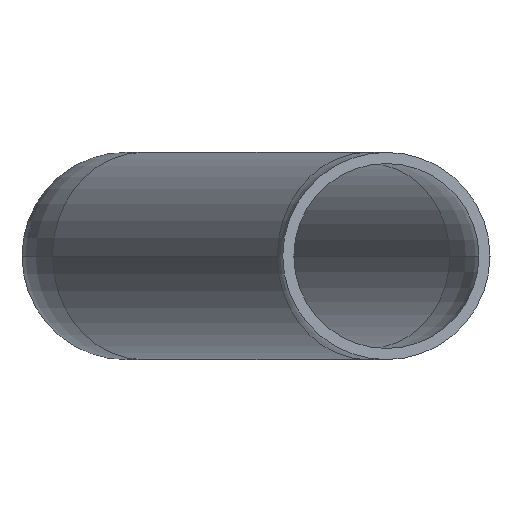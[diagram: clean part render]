
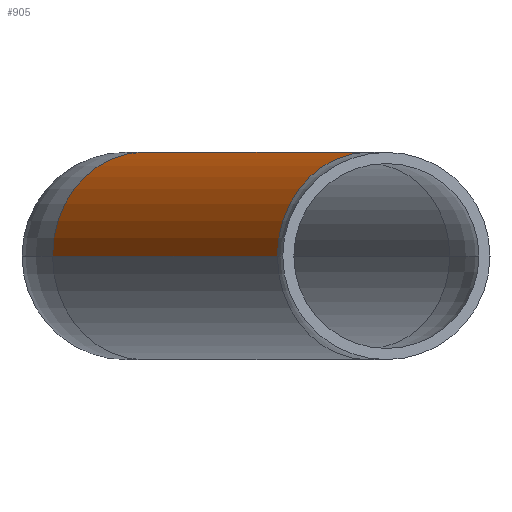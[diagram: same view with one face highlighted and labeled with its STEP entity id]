
A CAD part, left-side view. The second image highlights one B-rep face of the part: STEP entity #905.
In plain terms, the highlighted cylindrical face has radius 14 mm (diameter 28 mm), a partial arc.
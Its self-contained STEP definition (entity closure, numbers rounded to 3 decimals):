
#17 = CARTESIAN_POINT ( 'NONE',  ( -65.449, 2.428, 0. ) ) ;
#30 = AXIS2_PLACEMENT_3D ( 'NONE', #17, #1276, #1182 ) ;
#43 = DIRECTION ( 'NONE',  ( 0.478, -0.879, 0. ) ) ;
#161 = VECTOR ( 'NONE', #540, 1000. ) ;
#203 = FACE_OUTER_BOUND ( 'NONE', #656, .T. ) ;
#226 = CARTESIAN_POINT ( 'NONE',  ( -65.449, 2.428, 0. ) ) ;
#246 = EDGE_CURVE ( 'NONE', #385, #929, #367, .T. ) ;
#251 = VERTEX_POINT ( 'NONE', #479 ) ;
#296 = CYLINDRICAL_SURFACE ( 'NONE', #30, 14. ) ;
#333 = AXIS2_PLACEMENT_3D ( 'NONE', #226, #924, #43 ) ;
#367 = CIRCLE ( 'NONE', #535, 14. ) ;
#375 = VERTEX_POINT ( 'NONE', #993 ) ;
#379 = DIRECTION ( 'NONE',  ( -0.879, -0.478, 0. ) ) ;
#385 = VERTEX_POINT ( 'NONE', #796 ) ;
#453 = VECTOR ( 'NONE', #1274, 1000. ) ;
#461 = LINE ( 'NONE', #1015, #161 ) ;
#479 = CARTESIAN_POINT ( 'NONE',  ( -58.764, -9.873, 0. ) ) ;
#485 = LINE ( 'NONE', #865, #453 ) ;
#535 = AXIS2_PLACEMENT_3D ( 'NONE', #1059, #379, #866 ) ;
#540 = DIRECTION ( 'NONE',  ( 0.879, 0.478, 0. ) ) ;
#567 = CIRCLE ( 'NONE', #333, 14. ) ;
#579 = ORIENTED_EDGE ( 'NONE', *, *, #1208, .F. ) ;
#595 = EDGE_CURVE ( 'NONE', #251, #385, #461, .T. ) ;
#656 = EDGE_LOOP ( 'NONE', ( #1161, #936, #1240, #579 ) ) ;
#722 = EDGE_CURVE ( 'NONE', #251, #375, #567, .T. ) ;
#796 = CARTESIAN_POINT ( 'NONE',  ( -2.865, 20.509, 0. ) ) ;
#865 = CARTESIAN_POINT ( 'NONE',  ( -72.135, 14.728, 0. ) ) ;
#866 = DIRECTION ( 'NONE',  ( 0.478, -0.879, 0. ) ) ;
#905 = ADVANCED_FACE ( 'NONE', ( #203 ), #296, .T. ) ;
#924 = DIRECTION ( 'NONE',  ( -0.879, -0.478, 0. ) ) ;
#929 = VERTEX_POINT ( 'NONE', #1188 ) ;
#936 = ORIENTED_EDGE ( 'NONE', *, *, #595, .T. ) ;
#993 = CARTESIAN_POINT ( 'NONE',  ( -72.135, 14.728, 0. ) ) ;
#1015 = CARTESIAN_POINT ( 'NONE',  ( -58.764, -9.873, 0. ) ) ;
#1059 = CARTESIAN_POINT ( 'NONE',  ( -9.551, 32.809, 0. ) ) ;
#1161 = ORIENTED_EDGE ( 'NONE', *, *, #722, .F. ) ;
#1182 = DIRECTION ( 'NONE',  ( -0.478, 0.879, 0. ) ) ;
#1188 = CARTESIAN_POINT ( 'NONE',  ( -16.236, 45.11, 0. ) ) ;
#1208 = EDGE_CURVE ( 'NONE', #375, #929, #485, .T. ) ;
#1240 = ORIENTED_EDGE ( 'NONE', *, *, #246, .T. ) ;
#1274 = DIRECTION ( 'NONE',  ( 0.879, 0.478, 0. ) ) ;
#1276 = DIRECTION ( 'NONE',  ( 0.879, 0.478, 0. ) ) ;
